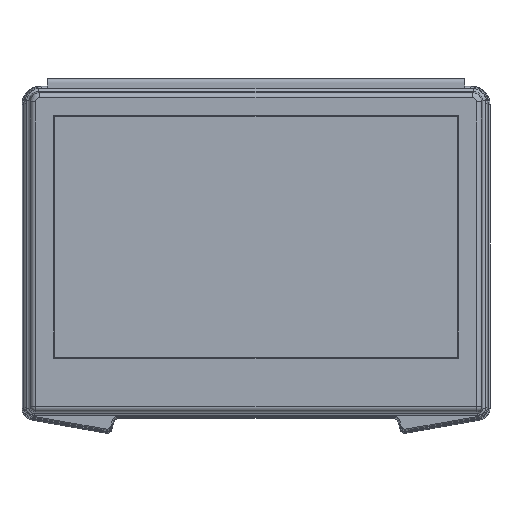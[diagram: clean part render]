
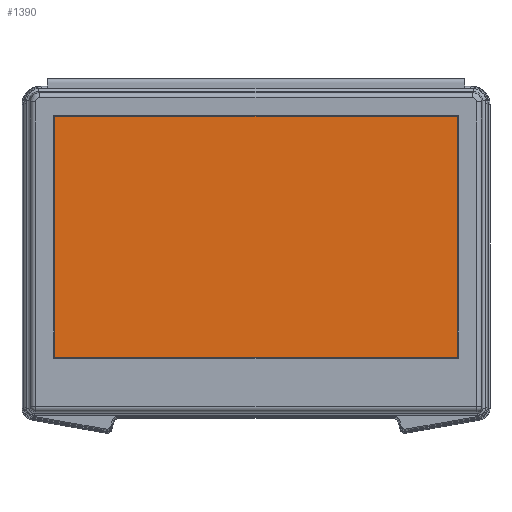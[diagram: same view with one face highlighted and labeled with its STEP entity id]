
A CAD part, top view. The second image highlights one B-rep face of the part: STEP entity #1390.
In plain terms, the highlighted planar face has unit normal (0, 0, 1).
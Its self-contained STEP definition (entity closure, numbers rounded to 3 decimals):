
#1390=ADVANCED_FACE('',(#2115),#1774,.F.);
#1774=PLANE('',#9636);
#2115=FACE_OUTER_BOUND('',#2683,.T.);
#2683=EDGE_LOOP('',(#4427,#4428,#4429,#4430));
#4427=ORIENTED_EDGE('',*,*,#7257,.F.);
#4428=ORIENTED_EDGE('',*,*,#7258,.F.);
#4429=ORIENTED_EDGE('',*,*,#7259,.T.);
#4430=ORIENTED_EDGE('',*,*,#7260,.F.);
#6187=VERTEX_POINT('',#15555);
#6188=VERTEX_POINT('',#15556);
#6189=VERTEX_POINT('',#15558);
#6190=VERTEX_POINT('',#15560);
#7257=EDGE_CURVE('',#6187,#6188,#8268,.T.);
#7258=EDGE_CURVE('',#6189,#6187,#8269,.T.);
#7259=EDGE_CURVE('',#6189,#6190,#8270,.T.);
#7260=EDGE_CURVE('',#6188,#6190,#8271,.T.);
#8268=LINE('',#15554,#8959);
#8269=LINE('',#15557,#8960);
#8270=LINE('',#15559,#8961);
#8271=LINE('',#15561,#8962);
#8959=VECTOR('',#11507,1.);
#8960=VECTOR('',#11508,1.);
#8961=VECTOR('',#11509,1.);
#8962=VECTOR('',#11510,1.);
#9636=AXIS2_PLACEMENT_3D('',#15562,#11511,#11512);
#11507=DIRECTION('',(0.,1.,0.));
#11508=DIRECTION('',(-1.,0.,0.));
#11509=DIRECTION('',(0.,1.,0.));
#11510=DIRECTION('',(1.,0.,0.));
#11511=DIRECTION('',(0.,0.,-1.));
#11512=DIRECTION('',(-1.,0.,0.));
#15554=CARTESIAN_POINT('',(-199.62,-32.8,17.8));
#15555=CARTESIAN_POINT('',(-199.62,-272.42,17.8));
#15556=CARTESIAN_POINT('',(-199.62,-33.18,17.8));
#15557=CARTESIAN_POINT('',(-200.,-272.42,17.8));
#15558=CARTESIAN_POINT('',(199.62,-272.42,17.8));
#15559=CARTESIAN_POINT('',(199.62,-32.8,17.8));
#15560=CARTESIAN_POINT('',(199.62,-33.18,17.8));
#15561=CARTESIAN_POINT('',(-200.,-33.18,17.8));
#15562=CARTESIAN_POINT('',(-200.,-32.8,17.8));
